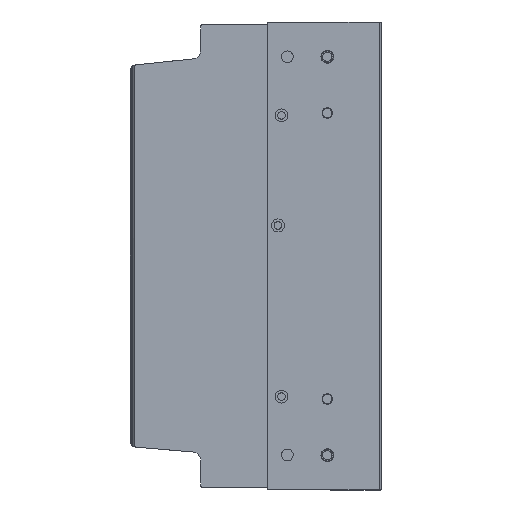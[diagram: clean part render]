
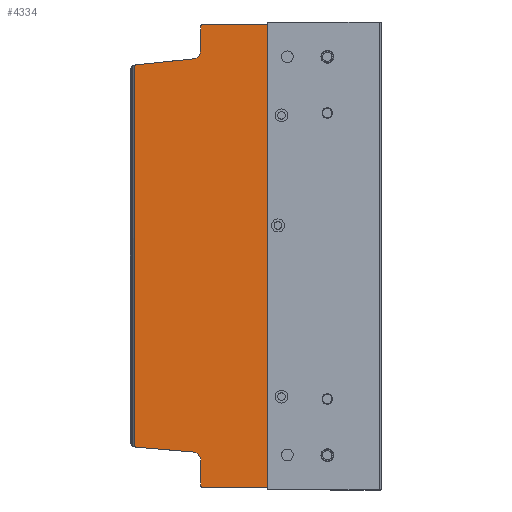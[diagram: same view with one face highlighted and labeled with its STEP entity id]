
A CAD part, front view. The second image highlights one B-rep face of the part: STEP entity #4334.
In plain terms, the highlighted planar face has unit normal (0, -1, 0).
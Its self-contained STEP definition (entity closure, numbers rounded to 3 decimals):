
#458=DIRECTION('',(0.,0.,1.));
#459=VECTOR('',#458,395.);
#460=CARTESIAN_POINT('',(51.982,10.49,-197.5));
#461=LINE('',#460,#459);
#507=DIRECTION('',(0.,0.,-1.));
#508=VECTOR('',#507,22.088);
#509=CARTESIAN_POINT('',(-55.022,10.49,-174.412));
#510=LINE('',#509,#508);
#511=CARTESIAN_POINT('',(-62.022,10.49,-174.414));
#512=DIRECTION('',(0.,1.,0.));
#513=DIRECTION('',(0.107,0.,0.994));
#514=AXIS2_PLACEMENT_3D('',#511,#512,#513);
#516=DIRECTION('',(0.996,0.,-0.087));
#517=VECTOR('',#516,49.367);
#518=CARTESIAN_POINT('',(-110.454,10.49,-163.151));
#519=LINE('',#518,#517);
#520=CARTESIAN_POINT('',(-110.018,10.49,-158.17));
#521=DIRECTION('',(0.,1.,0.));
#522=DIRECTION('',(-0.087,0.,-0.996));
#523=AXIS2_PLACEMENT_3D('',#520,#521,#522);
#525=DIRECTION('',(0.,0.,1.));
#526=VECTOR('',#525,325.79);
#527=CARTESIAN_POINT('',(-111.653,10.49,-162.895));
#528=LINE('',#527,#526);
#529=CARTESIAN_POINT('',(-110.018,10.49,158.17));
#530=DIRECTION('',(0.,1.,0.));
#531=DIRECTION('',(-0.327,0.,0.945));
#532=AXIS2_PLACEMENT_3D('',#529,#530,#531);
#534=DIRECTION('',(-0.994,0.,-0.106));
#535=VECTOR('',#534,49.552);
#536=CARTESIAN_POINT('',(-61.275,10.49,168.39));
#537=LINE('',#536,#535);
#538=CARTESIAN_POINT('',(-62.022,10.49,175.35));
#539=DIRECTION('',(0.,1.,0.));
#540=DIRECTION('',(0.991,0.,-0.134));
#541=AXIS2_PLACEMENT_3D('',#538,#539,#540);
#543=DIRECTION('',(0.,0.,-1.));
#544=VECTOR('',#543,22.088);
#545=CARTESIAN_POINT('',(-55.085,10.49,196.5));
#546=LINE('',#545,#544);
#547=CARTESIAN_POINT('',(-54.085,10.49,196.5));
#548=DIRECTION('',(0.,1.,0.));
#549=DIRECTION('',(-1.,0.,0.));
#550=AXIS2_PLACEMENT_3D('',#547,#548,#549);
#552=CARTESIAN_POINT('',(-54.018,10.49,-196.5));
#553=DIRECTION('',(0.,1.,0.));
#554=DIRECTION('',(0.,0.,-1.));
#555=AXIS2_PLACEMENT_3D('',#552,#553,#554);
#557=CARTESIAN_POINT('',(13.982,10.49,120.1));
#558=DIRECTION('',(0.,-1.,0.));
#559=DIRECTION('',(0.,0.,-1.));
#560=AXIS2_PLACEMENT_3D('',#557,#558,#559);
#562=CARTESIAN_POINT('',(13.982,10.49,120.1));
#563=DIRECTION('',(0.,-1.,0.));
#564=DIRECTION('',(0.,0.,1.));
#565=AXIS2_PLACEMENT_3D('',#562,#563,#564);
#567=CARTESIAN_POINT('',(13.982,10.49,-120.1));
#568=DIRECTION('',(0.,1.,0.));
#569=DIRECTION('',(0.,0.,1.));
#570=AXIS2_PLACEMENT_3D('',#567,#568,#569);
#572=CARTESIAN_POINT('',(13.982,10.49,-120.1));
#573=DIRECTION('',(0.,1.,0.));
#574=DIRECTION('',(0.,0.,-1.));
#575=AXIS2_PLACEMENT_3D('',#572,#573,#574);
#667=DIRECTION('',(1.,0.,0.));
#668=VECTOR('',#667,106.);
#669=CARTESIAN_POINT('',(-54.018,10.49,-197.5));
#670=LINE('',#669,#668);
#1235=DIRECTION('',(1.,0.,0.));
#1236=VECTOR('',#1235,106.067);
#1237=CARTESIAN_POINT('',(-54.085,10.49,197.5));
#1238=LINE('',#1237,#1236);
#1387=CARTESIAN_POINT('',(-111.653,10.49,-162.895));
#1393=CARTESIAN_POINT('',(-111.653,10.49,162.895));
#2892=CARTESIAN_POINT('',(51.982,10.49,-197.5));
#2893=CARTESIAN_POINT('',(51.982,10.49,197.5));
#2894=VERTEX_POINT('',#2892);
#2895=VERTEX_POINT('',#2893);
#2980=CARTESIAN_POINT('',(-54.018,10.49,-197.5));
#2982=VERTEX_POINT('',#2980);
#2984=CARTESIAN_POINT('',(-54.085,10.49,197.5));
#2986=VERTEX_POINT('',#2984);
#3020=VERTEX_POINT('',#1387);
#3021=VERTEX_POINT('',#1393);
#3022=CARTESIAN_POINT('',(-55.022,10.49,-174.412));
#3023=CARTESIAN_POINT('',(-55.018,10.49,-196.5));
#3024=VERTEX_POINT('',#3022);
#3025=VERTEX_POINT('',#3023);
#3026=CARTESIAN_POINT('',(-110.454,10.49,-163.151));
#3027=VERTEX_POINT('',#3026);
#3028=CARTESIAN_POINT('',(-61.275,10.49,-167.454));
#3029=VERTEX_POINT('',#3028);
#3030=CARTESIAN_POINT('',(-55.085,10.49,196.5));
#3031=VERTEX_POINT('',#3030);
#3032=CARTESIAN_POINT('',(-55.085,10.49,174.412));
#3033=VERTEX_POINT('',#3032);
#3034=CARTESIAN_POINT('',(-61.275,10.49,168.39));
#3035=VERTEX_POINT('',#3034);
#3036=CARTESIAN_POINT('',(-110.548,10.49,163.142));
#3037=VERTEX_POINT('',#3036);
#3090=CARTESIAN_POINT('',(13.982,10.49,116.8));
#3091=CARTESIAN_POINT('',(13.982,10.49,123.4));
#3092=VERTEX_POINT('',#3090);
#3093=VERTEX_POINT('',#3091);
#3142=CARTESIAN_POINT('',(13.982,10.49,-116.8));
#3143=VERTEX_POINT('',#3142);
#3144=CARTESIAN_POINT('',(13.982,10.49,-123.4));
#3145=VERTEX_POINT('',#3144);
#4289=CARTESIAN_POINT('',(-111.653,10.49,-197.5));
#4290=DIRECTION('',(0.,-1.,0.));
#4291=DIRECTION('',(1.,0.,0.));
#4292=AXIS2_PLACEMENT_3D('',#4289,#4290,#4291);
#4293=PLANE('',#4292);
#4295=ORIENTED_EDGE('',*,*,#4294,.F.);
#4297=ORIENTED_EDGE('',*,*,#4296,.F.);
#4299=ORIENTED_EDGE('',*,*,#4298,.F.);
#4301=ORIENTED_EDGE('',*,*,#4300,.T.);
#4303=ORIENTED_EDGE('',*,*,#4302,.T.);
#4305=ORIENTED_EDGE('',*,*,#4304,.T.);
#4307=ORIENTED_EDGE('',*,*,#4306,.F.);
#4309=ORIENTED_EDGE('',*,*,#4308,.F.);
#4311=ORIENTED_EDGE('',*,*,#4310,.F.);
#4313=ORIENTED_EDGE('',*,*,#4312,.T.);
#4315=ORIENTED_EDGE('',*,*,#4314,.T.);
#4316=ORIENTED_EDGE('',*,*,#4226,.F.);
#4318=ORIENTED_EDGE('',*,*,#4317,.F.);
#4320=ORIENTED_EDGE('',*,*,#4319,.T.);
#4321=EDGE_LOOP('',(#4295,#4297,#4299,#4301,#4303,#4305,#4307,#4309,#4311,#4313,
#4315,#4316,#4318,#4320));
#4322=FACE_OUTER_BOUND('',#4321,.F.);
#4323=ORIENTED_EDGE('',*,*,#4263,.T.);
#4325=ORIENTED_EDGE('',*,*,#4324,.T.);
#4326=EDGE_LOOP('',(#4323,#4325));
#4327=FACE_BOUND('',#4326,.F.);
#4329=ORIENTED_EDGE('',*,*,#4328,.F.);
#4331=ORIENTED_EDGE('',*,*,#4330,.F.);
#4332=EDGE_LOOP('',(#4329,#4331));
#4333=FACE_BOUND('',#4332,.F.);
#4334=ADVANCED_FACE('',(#4322,#4327,#4333),#4293,.T.);
#515=CIRCLE('',#514,7.);
#524=CIRCLE('',#523,5.);
#533=CIRCLE('',#532,5.);
#542=CIRCLE('',#541,7.);
#551=CIRCLE('',#550,1.);
#556=CIRCLE('',#555,1.);
#561=CIRCLE('',#560,3.3);
#566=CIRCLE('',#565,3.3);
#571=CIRCLE('',#570,3.3);
#576=CIRCLE('',#575,3.3);
#4226=EDGE_CURVE('',#2894,#2895,#461,.T.);
#4263=EDGE_CURVE('',#3092,#3093,#561,.T.);
#4294=EDGE_CURVE('',#3024,#3025,#510,.T.);
#4296=EDGE_CURVE('',#3029,#3024,#515,.T.);
#4298=EDGE_CURVE('',#3027,#3029,#519,.T.);
#4300=EDGE_CURVE('',#3027,#3020,#524,.T.);
#4302=EDGE_CURVE('',#3020,#3021,#528,.T.);
#4304=EDGE_CURVE('',#3021,#3037,#533,.T.);
#4306=EDGE_CURVE('',#3035,#3037,#537,.T.);
#4308=EDGE_CURVE('',#3033,#3035,#542,.T.);
#4310=EDGE_CURVE('',#3031,#3033,#546,.T.);
#4312=EDGE_CURVE('',#3031,#2986,#551,.T.);
#4314=EDGE_CURVE('',#2986,#2895,#1238,.T.);
#4317=EDGE_CURVE('',#2982,#2894,#670,.T.);
#4319=EDGE_CURVE('',#2982,#3025,#556,.T.);
#4324=EDGE_CURVE('',#3093,#3092,#566,.T.);
#4328=EDGE_CURVE('',#3143,#3145,#571,.T.);
#4330=EDGE_CURVE('',#3145,#3143,#576,.T.);
